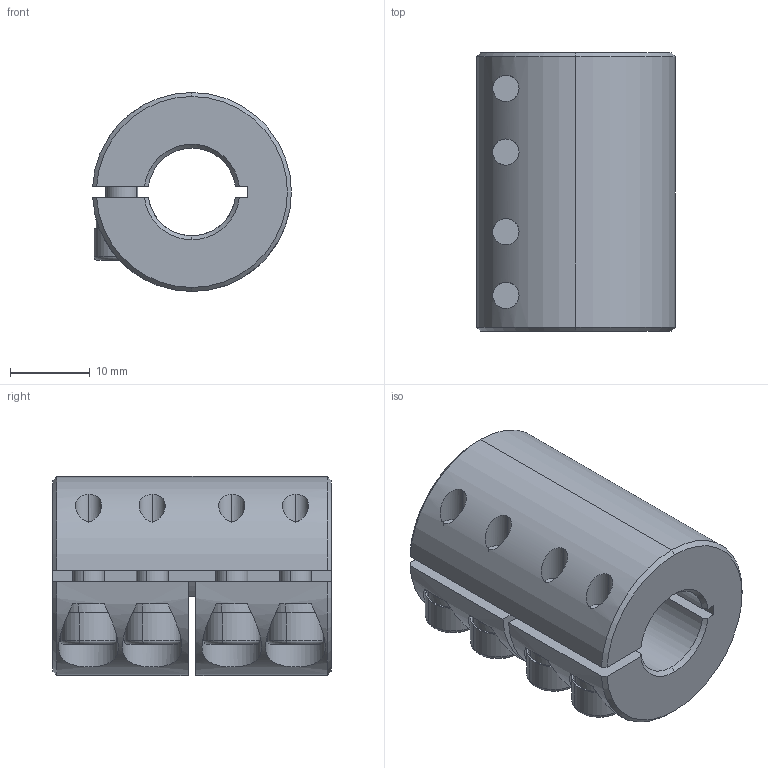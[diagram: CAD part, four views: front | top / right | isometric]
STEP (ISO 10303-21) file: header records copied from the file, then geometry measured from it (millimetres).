
FILE_DESCRIPTION (( 'STEP AP203' ), '1' );
FILE_NAME ('LL-B-D25L35-11-12.STEP', '2021-11-05T07:05:59', ( '' ), ( '' ), 'SwSTEP 2.0', 'SolidWorks 2018', '' );
FILE_SCHEMA (( 'CONFIG_CONTROL_DESIGN' ));
Length unit declared in the file: millimetre
Products named in the file (1): LL-B-D25L35-11-12
Bounding box: 24.98 x 35 x 25 mm (x, y, z)
Volume: 12641 mm3; surface area: 6875.2 mm2
Topology: 1 solids, 1 shells, 192 faces, 493 edges, 307 vertices
Faces by surface type: plane 92, cylinder 72, cone 20, torus 8
Entity records: 6313 total; most frequent: CARTESIAN_POINT 1497, DIRECTION 1042, ORIENTED_EDGE 970, EDGE_CURVE 485, AXIS2_PLACEMENT_3D 404, VERTEX_POINT 307, LINE 234, VECTOR 234
